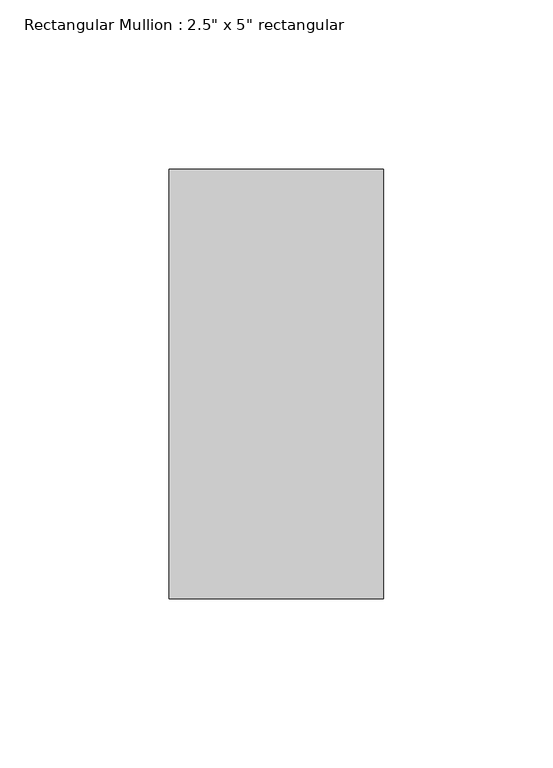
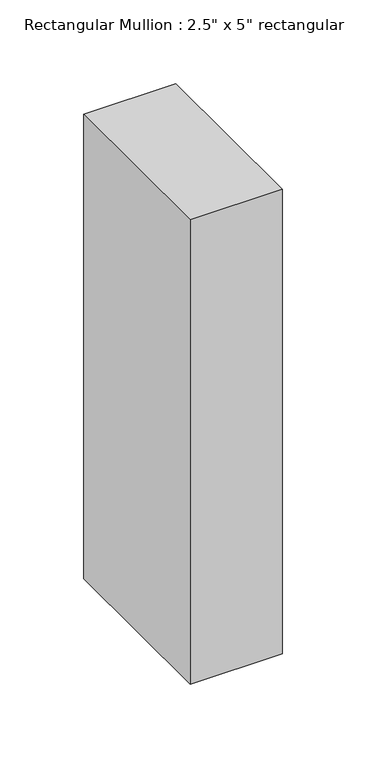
"""IFC4 building model written with IfcOpenShell, lengths in millimetres: member geometry."""

import ifcopenshell
import ifcopenshell.guid

model = None  # the IFC model being written
_history = None  # IfcOwnerHistory: only IFC2X3 demands one
_inside = {}  # id of a spatial element -> (the spatial element, [elements in it])
_under = {}  # id of a project, library or spatial element -> (it, [spatial elements below it])
_declared = {}  # id of a project -> (the project, [libraries it declares])
_typed = {}  # id of a type object -> (the type object, [elements of that type])
_made_of = {}  # id of a material, layer set ... -> (it, [elements and type objects made of it])


def new_model(schema):
    """Start an empty IFC model of exactly this schema.

    Asked for "IFC4X3", IfcOpenShell would pick the latest addendum, in which some entities
    have other attributes; the version numbers below select the first issue.
    IFC2X3 requires an IfcOwnerHistory on every rooted entity: one is made here for all.
    """
    global model, _history
    if schema == "IFC4X3":
        model = ifcopenshell.file(schema_version=(4, 3, 0, 0))
    else:
        model = ifcopenshell.file(schema=schema)
    _inside.clear()
    _under.clear()
    _declared.clear()
    _typed.clear()
    _made_of.clear()
    _history = None
    if model.schema == "IFC2X3":
        org = make("IfcOrganization", Name="unknown")
        user = make(
            "IfcPersonAndOrganization",
            ThePerson=make("IfcPerson", FamilyName="unknown"),
            TheOrganization=org,
        )
        app = make(
            "IfcApplication",
            ApplicationDeveloper=org,
            Version="unknown",
            ApplicationFullName="unknown",
            ApplicationIdentifier="unknown",
        )
        _history = make(
            "IfcOwnerHistory",
            OwningUser=user,
            OwningApplication=app,
            ChangeAction="ADDED",
            CreationDate=0,
        )
    return model


def make(cls, **values):
    """One entity of the class cls with the attributes given. An attribute that is None is left unset."""
    return model.create_entity(
        cls, **{name: value for name, value in values.items() if value is not None}
    )


def rooted(cls, **values):
    """An entity with a GlobalId (a new one), such as an element, a storey or a relation."""
    return make(cls, GlobalId=ifcopenshell.guid.new(), OwnerHistory=_history, **values)


def si_unit(unit_type, name, prefix=None):
    """IfcSIUnit, for example si_unit("LENGTHUNIT", "METRE", prefix="MILLI")."""
    return make("IfcSIUnit", UnitType=unit_type, Prefix=prefix, Name=name)


def assignment(units):
    """IfcUnitAssignment: the units of a project."""
    return None if units is None else make("IfcUnitAssignment", Units=units)


def point(xyz):
    """IfcCartesianPoint."""
    return None if xyz is None else make("IfcCartesianPoint", Coordinates=xyz)


def direction(xyz):
    """IfcDirection."""
    return None if xyz is None else make("IfcDirection", DirectionRatios=xyz)


def frame(location, z_axis=None, x_axis=None):
    """IfcAxis2Placement3D, a coordinate frame: its origin and axes. An axis left out is left unset."""
    return make(
        "IfcAxis2Placement3D",
        Location=point(location),
        Axis=direction(z_axis),
        RefDirection=direction(x_axis),
    )


def origin():
    """The frame at (0, 0, 0) with its axes left unset."""
    return frame((0.0, 0.0, 0.0))


def place(relative_to, where):
    """IfcLocalPlacement: puts the frame where relative to a parent placement (None: the world)."""
    return make(
        "IfcLocalPlacement", PlacementRelTo=relative_to, RelativePlacement=where
    )


def context(
    kind, dimensions, precision=None, world=None, true_north=None, identifier=None
):
    """IfcGeometricRepresentationContext, for example the 3D "Model" context."""
    return make(
        "IfcGeometricRepresentationContext",
        ContextIdentifier=identifier,
        ContextType=kind,
        CoordinateSpaceDimension=dimensions,
        Precision=precision,
        WorldCoordinateSystem=world,
        TrueNorth=true_north,
    )


def project(units=None, contexts=None):
    """IfcProject with its units and contexts."""
    return rooted(
        "IfcProject",
        Name="project",
        RepresentationContexts=contexts,
        UnitsInContext=assignment(units),
    )


def spatial(cls, under=None, at=None, **own):
    """A site, building, storey or space (cls), placed at a placement, below another one or the project."""
    s = rooted(cls, ObjectPlacement=at, **own)
    if under is not None:
        _under.setdefault(under.id(), (under, []))[1].append(s)
    return s


def polyline(points):
    """IfcPolyline through the points."""
    return make("IfcPolyline", Points=[point(p) for p in points])


def outline(outer, holes=None, kind="AREA"):
    """IfcArbitraryClosedProfileDef: a profile drawn as a closed curve; with holes, ...WithVoids."""
    if holes is None:
        return make("IfcArbitraryClosedProfileDef", ProfileType=kind, OuterCurve=outer)
    return make(
        "IfcArbitraryProfileDefWithVoids",
        ProfileType=kind,
        OuterCurve=outer,
        InnerCurves=holes,
    )


def extrude(swept, where, along, depth):
    """IfcExtrudedAreaSolid: the profile swept, set in the frame where, extruded along a direction by depth."""
    return make(
        "IfcExtrudedAreaSolid",
        SweptArea=swept,
        Position=where,
        ExtrudedDirection=direction(along),
        Depth=depth,
    )


def shape(context_of_items, identifier, shape_type, items):
    """IfcShapeRepresentation: the items that make up one representation, for example the "Body"."""
    return make(
        "IfcShapeRepresentation",
        ContextOfItems=context_of_items,
        RepresentationIdentifier=identifier,
        RepresentationType=shape_type,
        Items=items,
    )


def source(mapping_origin, context_of_items, identifier, shape_type, items):
    """IfcRepresentationMap: a shape defined once, which mapped items show again and again."""
    return make(
        "IfcRepresentationMap",
        MappingOrigin=mapping_origin,
        MappedRepresentation=shape(context_of_items, identifier, shape_type, items),
    )


def transform(
    local_origin,
    x_axis=None,
    y_axis=None,
    z_axis=None,
    scale=None,
    scale2=None,
    scale3=None,
    uniform=True,
):
    """IfcCartesianTransformationOperator3D, or its non-uniform kind. x_axis, y_axis, z_axis: its Axis1, 2, 3."""
    if uniform:
        return make(
            "IfcCartesianTransformationOperator3D",
            Axis1=direction(x_axis),
            Axis2=direction(y_axis),
            LocalOrigin=point(local_origin),
            Scale=scale,
            Axis3=direction(z_axis),
        )
    return make(
        "IfcCartesianTransformationOperator3DnonUniform",
        Axis1=direction(x_axis),
        Axis2=direction(y_axis),
        LocalOrigin=point(local_origin),
        Scale=scale,
        Axis3=direction(z_axis),
        Scale2=scale2,
        Scale3=scale3,
    )


def mapped(mapping_source, mapping_target):
    """IfcMappedItem: shows the shape of a source again, moved by a transform."""
    return make(
        "IfcMappedItem", MappingSource=mapping_source, MappingTarget=mapping_target
    )


def made_of(thing, what):
    """Note that an element or type object is made of a material, layer set ...; save() writes the relation."""
    if what is not None:
        _made_of.setdefault(what.id(), (what, []))[1].append(thing)
    return thing


def element(
    cls,
    number,
    at=None,
    inside=None,
    cuts=None,
    type_object=None,
    material=None,
    context=None,
    identifier="Body",
    shape_type=None,
    held_by="IfcProductDefinitionShape",
    body=None,
    shapes=None,
    **own,
):
    """One element of the class cls, such as IfcWall. Its Tag is "e" and its number.

    at: its placement. inside: the storey or other place that contains it. cuts: it is an
    opening in that element (IfcRelVoidsElement). A single representation is given by context,
    identifier, shape_type and body (its items); several are given by shapes. held_by: the class
    of the entity that holds the representations. save() writes the other relations.
    """
    e = rooted(cls, Tag="e%d" % number, ObjectPlacement=at, **own)
    if body is not None:
        shapes = [shape(context, identifier, shape_type, body)]
    if shapes is not None:
        e.Representation = make(held_by, Representations=shapes)
    if inside is not None:
        _inside.setdefault(inside.id(), (inside, []))[1].append(e)
    if cuts is not None:
        rooted(
            "IfcRelVoidsElement", RelatingBuildingElement=cuts, RelatedOpeningElement=e
        )
    if type_object is not None:
        _typed.setdefault(type_object.id(), (type_object, []))[1].append(e)
    return made_of(e, material)


def aggregate(whole, parts):
    """IfcRelAggregates: a whole, such as a stair, and the parts it consists of."""
    return rooted("IfcRelAggregates", RelatingObject=whole, RelatedObjects=parts)


def save(model, path):
    """Write the relations noted so far, then the file.

    IfcRelAggregates (storeys below a building ...), IfcRelContainedInSpatialStructure (elements
    in a storey), IfcRelDefinesByType, IfcRelAssociatesMaterial and IfcRelDeclares: one each for
    every whole, place, type object, material and project.
    """
    for whole, parts in _under.values():
        aggregate(whole, parts)
    for where, things in _inside.values():
        rooted(
            "IfcRelContainedInSpatialStructure",
            RelatedElements=things,
            RelatingStructure=where,
        )
    for kind, things in _typed.values():
        rooted("IfcRelDefinesByType", RelatedObjects=things, RelatingType=kind)
    for what, things in _made_of.values():
        rooted("IfcRelAssociatesMaterial", RelatedObjects=things, RelatingMaterial=what)
    for by, libraries in _declared.values():
        rooted("IfcRelDeclares", RelatingContext=by, RelatedDefinitions=libraries)
    model.write(path)


def member_55de27d3(model_context):
    return source(origin(), model_context, "Body", "SweptSolid", [
        extrude(outline(polyline([(0.0, 63.5), (0.0, -63.5), (-63.5, -63.5), (-63.5, 63.5), (0.0, 63.5)])), frame((0.0, 0.0, -338.6485797), z_axis=(0.0, 0.0, 1.0), x_axis=(1.0, 0.0, 0.0)), (0.0, 0.0, 1.0), 338.6485797),
    ])


if __name__ == "__main__":
    model = new_model("IFC4")
    model_context = context("Model", 3, world=origin())
    ifc_project = project(units=[si_unit("LENGTHUNIT", "METRE", prefix="MILLI")], contexts=[model_context])
    site = spatial("IfcSite", under=ifc_project)
    building = spatial("IfcBuilding", under=site)
    placement = place(None, origin())
    member_shape = member_55de27d3(model_context)
    element("IfcMember", 1, ObjectType="Rectangular Mullion : 2.5\" x 5\" rectangular", at=placement, inside=building, context=model_context, shape_type="MappedRepresentation", body=[
        mapped(member_shape, transform((0.0, 0.0, 0.0), x_axis=(1.0, 0.0, 0.0), y_axis=(0.0, 1.0, 0.0), z_axis=(0.0, 0.0, 1.0))),
    ])
    save(model, "model.ifc")
